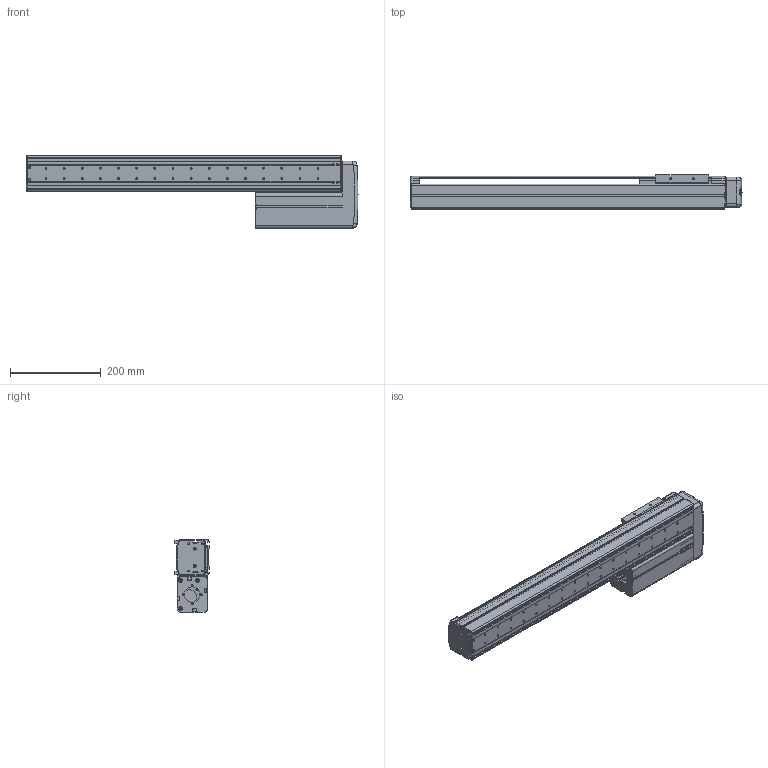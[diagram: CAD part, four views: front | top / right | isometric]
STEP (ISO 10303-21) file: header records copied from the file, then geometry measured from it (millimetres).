
FILE_DESCRIPTION((''),'2;1');
FILE_NAME('BE10E-UL-M_B-50_IGS_PRT','2017-06-17T',(' '),(''),'PRO/ENGINEER BY PARAMETRIC TECHNOLOGY CORPORATION, 2015030','PRO/ENGINEER BY PARAMETRIC TECHNOLOGY CORPORATION, 2015030','');
FILE_SCHEMA(('CONFIG_CONTROL_DESIGN'));
Length unit declared in the file: millimetre
Products named in the file (1): BE10E-UL-M_B-50_IGS_PRT
Bounding box: 732 x 75 x 160 mm (x, y, z)
Volume: 1190919 mm3; surface area: 822305.2 mm2
Topology: 2 solids, 109 shells, 1773 faces, 4782 edges, 3106 vertices
Faces by surface type: cylinder 841, plane 704, cone 81, torus 71, sphere 44, bspline 32
Entity records: 57908 total; most frequent: CARTESIAN_POINT 12232, DIRECTION 9914, ORIENTED_EDGE 9086, EDGE_CURVE 4746, AXIS2_PLACEMENT_3D 3698, VERTEX_POINT 3106, VECTOR 2518, LINE 2518
